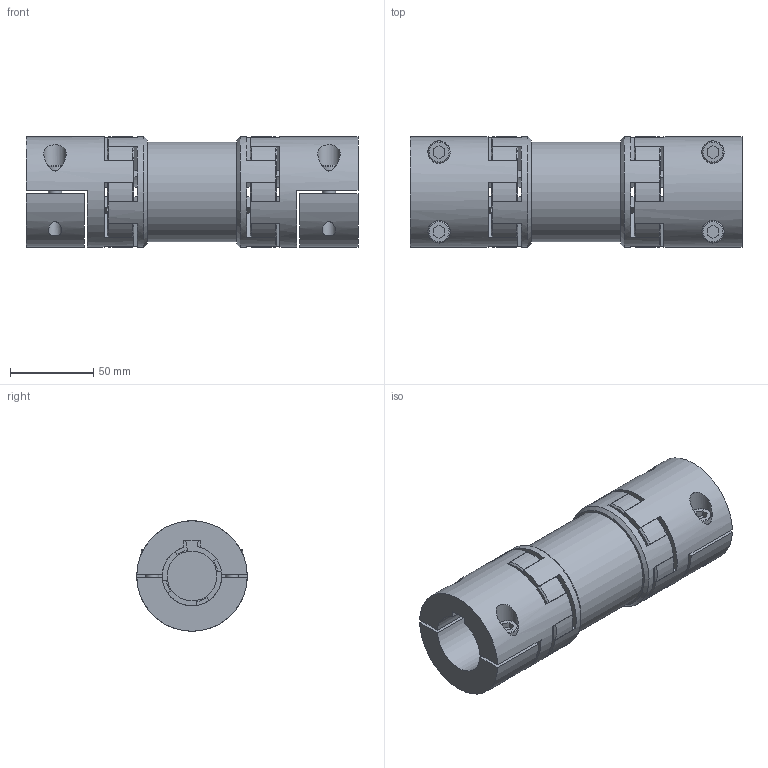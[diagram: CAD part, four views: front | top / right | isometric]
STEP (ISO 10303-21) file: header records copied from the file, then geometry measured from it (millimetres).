
FILE_DESCRIPTION(/* description */ ('STEP AP214'),/* implementation_level */ '2;1');
FILE_NAME(/* name */ 'C:\Diequa Files\DieQua Coupling\LE\STP\LE.150.L.AB.#.#.stp',/* time_stamp */ '2019-05-02T09:33:14-05:00',/* author */ ('DiequaCAD'),/* organization */ (''),/* preprocessor_version */ 'ST-DEVELOPER v18',/* originating_system */ 'Autodesk Inventor 2020',/* authorisation */ ' ');
FILE_SCHEMA (('AUTOMOTIVE_DESIGN { 1 0 10303 214 3 1 1 }'));
Length unit declared in the file: millimetre
Products named in the file (1): EZ2_150_36_PFN_36_PFN_4
Bounding box: 200 x 66.5 x 66.5 mm (x, y, z)
Volume: 400712.3 mm3; surface area: 103382 mm2
Topology: 1 solids, 2 shells, 296 faces, 836 edges, 542 vertices
Faces by surface type: plane 176, cylinder 82, cone 34, torus 4
Full cylindrical faces by diameter (mm): 8 x8, 8.5 x4, 13 x4, 13.5 x4, 30 x2, 48 x1, 60 x1, 66.5 x4
Entity records: 12340 total; most frequent: CARTESIAN_POINT 4355, DIRECTION 1674, ORIENTED_EDGE 1672, EDGE_CURVE 836, LINE 560, VECTOR 560, AXIS2_PLACEMENT_3D 557, VERTEX_POINT 542
